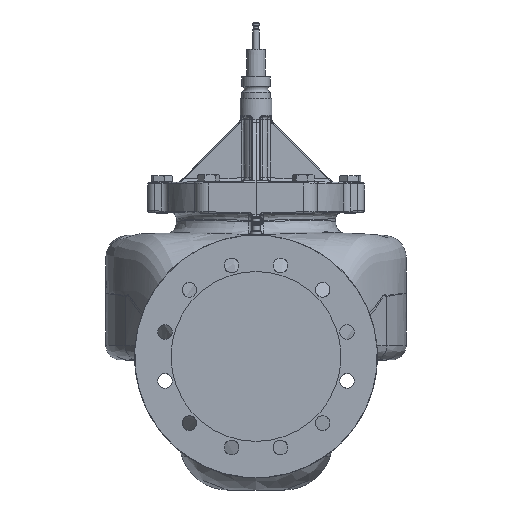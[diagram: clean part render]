
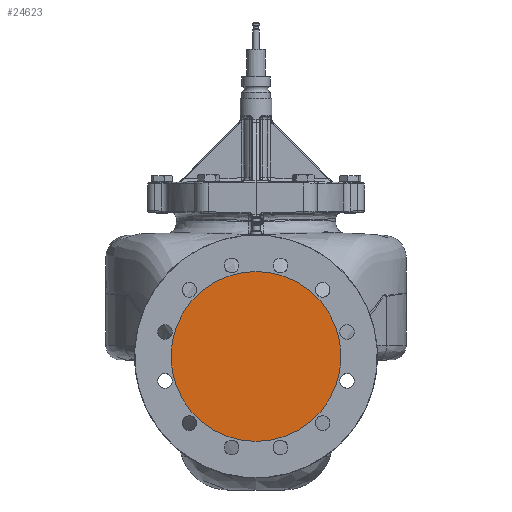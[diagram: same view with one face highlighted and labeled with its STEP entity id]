
A CAD part, left-side view. The second image highlights one B-rep face of the part: STEP entity #24623.
In plain terms, the highlighted planar face has unit normal (-1, 0, 0).
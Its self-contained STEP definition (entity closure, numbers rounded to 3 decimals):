
#2026=PLANE('',#26667);
#3106=FACE_OUTER_BOUND('',#4603,.T.);
#4603=EDGE_LOOP('',(#19003));
#8250=CIRCLE('',#26668,133.);
#10506=VERTEX_POINT('',#90476);
#13536=EDGE_CURVE('',#10506,#10506,#8250,.T.);
#19003=ORIENTED_EDGE('',*,*,#13536,.T.);
#24623=ADVANCED_FACE('',(#3106),#2026,.F.);
#26667=AXIS2_PLACEMENT_3D('',#90475,#30899,#30900);
#26668=AXIS2_PLACEMENT_3D('',#90477,#30901,#30902);
#30899=DIRECTION('center_axis',(1.,0.,0.));
#30900=DIRECTION('ref_axis',(0.,0.,
1.));
#30901=DIRECTION('center_axis',(-1.,0.,0.));
#30902=DIRECTION('ref_axis',(0.,1.,0.));
#90475=CARTESIAN_POINT('Origin',(-300.,0.,0.));
#90476=CARTESIAN_POINT('',(-300.,-133.,0.));
#90477=CARTESIAN_POINT('Origin',(-300.,0.,0.));
